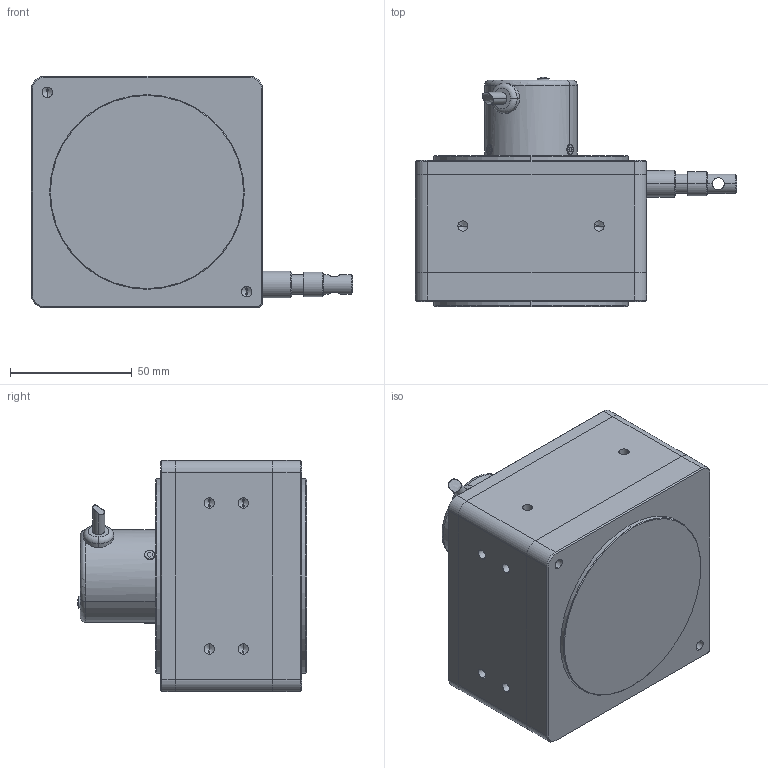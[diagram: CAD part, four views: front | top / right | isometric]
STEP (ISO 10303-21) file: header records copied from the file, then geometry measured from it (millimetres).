
FILE_DESCRIPTION(/* description */ (''),/* implementation_level */ '2;1');
FILE_NAME(/* name */ 'IP54 BRT38 6&7m-数字量.stp',/* time_stamp */ '2023-08-29T10:15:20+08:00',/* author */ (''),/* organization */ (''),/* preprocessor_version */ 'ST-DEVELOPER v16.7',/* originating_system */ 'SIEMENS PLM Software NX 12.0',/* authorisation */ '');
FILE_SCHEMA (('AP203_CONFIGURATION_CONTROLLED_3D_DESIGN_OF_MECHANICAL_PARTS_AND_ASSEMBLIES_MIM_LF { 1 0 10303 403 2 1 2}'));
Length unit declared in the file: millimetre
Products named in the file (1): 290156BC952C4r6j
Bounding box: 132 x 94.2 x 95 mm (x, y, z)
Volume: 576284.4 mm3; surface area: 53026.8 mm2
Topology: 4 solids, 4 shells, 209 faces, 484 edges, 279 vertices
Faces by surface type: cylinder 85, cone 50, plane 46, bspline 19, torus 8, sphere 1
Full cylindrical faces by diameter (mm): 5 x1
Entity records: 7915 total; most frequent: CARTESIAN_POINT 3274, DIRECTION 966, ORIENTED_EDGE 902, EDGE_CURVE 451, AXIS2_PLACEMENT_3D 384, VERTEX_POINT 277, EDGE_LOOP 245, ADVANCED_FACE 209
